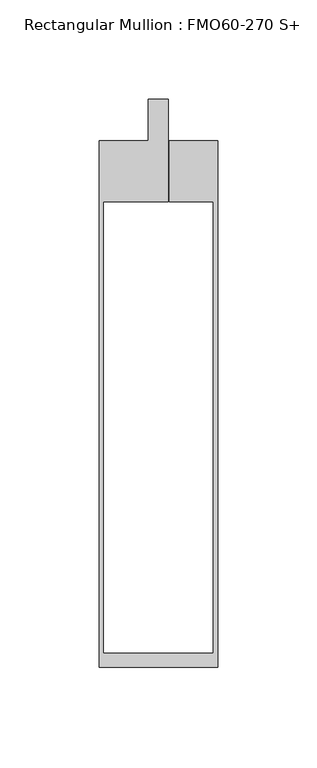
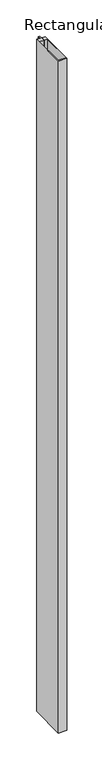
"""IFC4 building model written with IfcOpenShell, lengths in millimetres: member geometry, Rectangular Mullion : FMO60-270 S+."""

from ifc_helpers import new_model, si_unit, origin, place, context, project, spatial, faceted_brep, source, transform, mapped, element, save


def rectangular_mullion_fmo60_270_s_035aa8a6(model_context):
    return source(origin(), model_context, "Body", "Brep", [
        faceted_brep([(-4.9998612, 0.2, 0.0), (-29.996122, 0.2, 0.0), (-29.996122, -265.7999775, 0.0), (30.0001388, -265.7999775, 0.0), (30.0001388, 0.2, 0.0), (5.4998612, 0.2, 0.0), (5.4998612, -30.7984504, 0.0), (27.803878, -30.7984504, 0.0), (27.803878, -258.7999775, 0.0), (-27.7943897, -258.7999775, 0.0), (-27.7943897, -30.8006893, 0.0), (4.9998612, -30.8006893, 0.0), (4.9998612, 21.1914962, 0.0), (-4.9998612, 21.1914866, 0.0), (-4.9998612, 0.2, -5000.0), (-4.9998612, 21.1914866, -5000.0), (4.9998612, 21.1914866, -5000.0), (4.9998612, -30.8006893, -5000.0), (-27.7943897, -30.8006893, -5000.0), (-27.7943897, -258.7999775, -5000.0), (27.803878, -258.7999775, -5000.0), (27.803878, -30.7984504, -5000.0), (5.4998612, -30.7984504, -5000.0), (5.4998612, 0.2, -5000.0), (30.0001388, 0.2, -5000.0), (30.0001388, -265.7999775, -5000.0), (-29.996122, -265.7999775, -5000.0), (-29.996122, 0.2, -5000.0)], [[[0, 1, 2, 3, 4, 5, 6, 7, 8, 9, 10, 11, 12, 13]], [[14, 15, 16, 17, 18, 19, 20, 21, 22, 23, 24, 25, 26, 27]], [[0, 13, 15, 14]], [[1, 0, 14, 27]], [[2, 1, 27, 26]], [[3, 2, 26, 25]], [[4, 3, 25, 24]], [[5, 4, 24, 23]], [[6, 5, 23, 22]], [[7, 6, 22, 21]], [[8, 7, 21, 20]], [[9, 8, 20, 19]], [[10, 9, 19, 18]], [[11, 10, 18, 17]], [[12, 11, 17, 16]], [[13, 12, 16, 15]]]),
    ])


if __name__ == "__main__":
    model = new_model("IFC4")
    model_context = context("Model", 3, world=origin())
    ifc_project = project(units=[si_unit("LENGTHUNIT", "METRE", prefix="MILLI")], contexts=[model_context])
    site = spatial("IfcSite", under=ifc_project)
    building = spatial("IfcBuilding", under=site)
    placement = place(None, origin())
    rectangular_mullion_fmo60_270_s_shape = rectangular_mullion_fmo60_270_s_035aa8a6(model_context)
    element("IfcMember", 1, ObjectType="Rectangular Mullion : FMO60-270 S+", at=placement, inside=building, context=model_context, shape_type="MappedRepresentation", body=[
        mapped(rectangular_mullion_fmo60_270_s_shape, transform((0.0, 0.0, 0.0), x_axis=(1.0, 0.0, 0.0), y_axis=(0.0, 1.0, 0.0), z_axis=(0.0, 0.0, 1.0))),
    ])
    save(model, "model.ifc")
